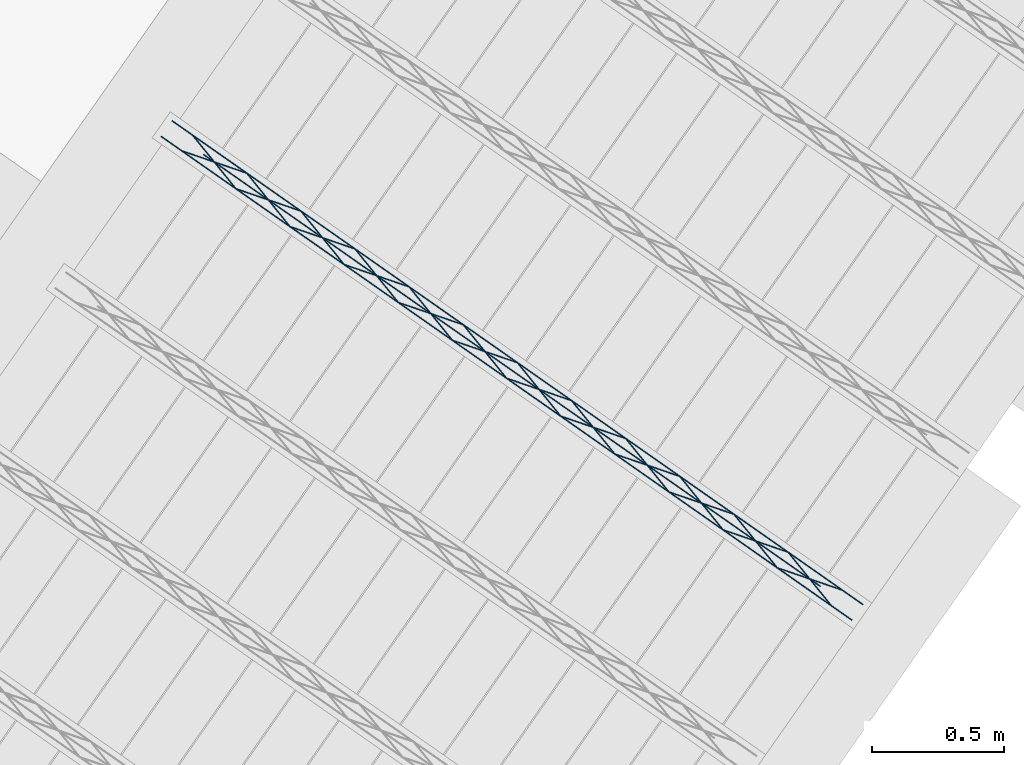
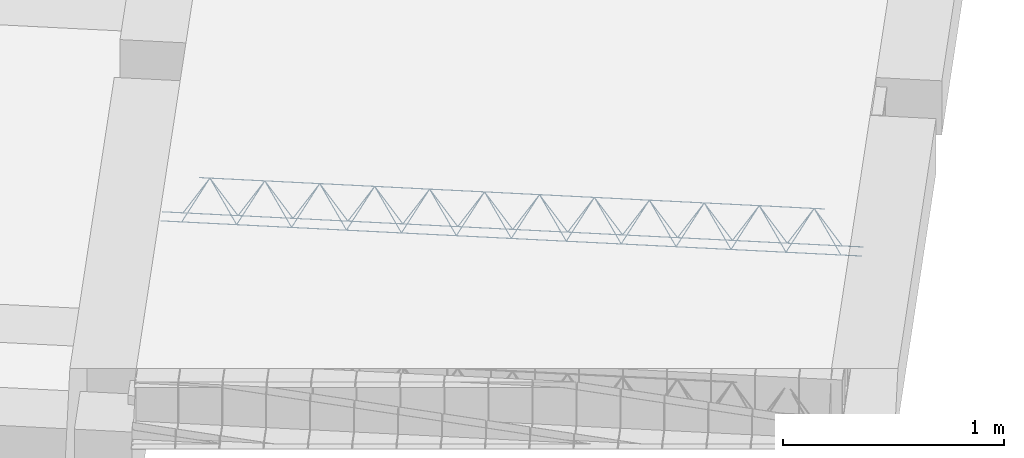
# One storey, part 9 of 46: 1 member.
"""IFC2X3 building model written with IfcOpenShell, lengths in metres."""

from ifc_helpers import new_model, entity, si_unit, converted_unit, derived_unit, direction, frame, origin, origin_2d_with_axis, place, context, subcontext, project, spatial, circle, extrude, type_object, element, save


model = new_model("IFC2X3")

# Units and contexts
model_context = context("Model", 3, precision=1e-05, world=origin(), true_north=direction((6.123031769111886e-17, 1.0)))
body_context = subcontext(model_context, "Body", "Model", "MODEL_VIEW")
ifc_project = project(units=[si_unit("LENGTHUNIT", "METRE"), si_unit("AREAUNIT", "SQUARE_METRE"), si_unit("VOLUMEUNIT", "CUBIC_METRE"), converted_unit("PLANEANGLEUNIT", "DEGREE", entity("IfcPlaneAngleMeasure", 0.017453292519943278), si_unit("PLANEANGLEUNIT", "RADIAN"), dimensions=[0, 0, 0, 0, 0, 0, 0]), si_unit("MASSUNIT", "GRAM", prefix="KILO"), derived_unit("MASSDENSITYUNIT", [(si_unit("MASSUNIT", "GRAM", prefix="KILO"), 1), (si_unit("LENGTHUNIT", "METRE"), -3)]), derived_unit("IONCONCENTRATIONUNIT", [(si_unit("MASSUNIT", "GRAM", prefix="KILO"), 1), (si_unit("LENGTHUNIT", "METRE"), -3)]), derived_unit("MOMENTOFINERTIAUNIT", [(si_unit("LENGTHUNIT", "METRE"), 4)]), si_unit("TIMEUNIT", "SECOND"), si_unit("FREQUENCYUNIT", "HERTZ"), si_unit("THERMODYNAMICTEMPERATUREUNIT", "DEGREE_CELSIUS"), derived_unit("THERMALTRANSMITTANCEUNIT", [(si_unit("MASSUNIT", "GRAM", prefix="KILO"), 1), (si_unit("THERMODYNAMICTEMPERATUREUNIT", "KELVIN"), -1), (si_unit("TIMEUNIT", "SECOND"), -3)]), derived_unit("THERMALCONDUCTANCEUNIT", [(si_unit("MASSUNIT", "GRAM", prefix="KILO"), 1), (si_unit("THERMODYNAMICTEMPERATUREUNIT", "KELVIN"), -1), (si_unit("TIMEUNIT", "SECOND"), -3), (si_unit("LENGTHUNIT", "METRE"), 1)]), derived_unit("VOLUMETRICFLOWRATEUNIT", [(si_unit("LENGTHUNIT", "METRE", prefix="DECI"), 3), (si_unit("TIMEUNIT", "SECOND"), -1)]), derived_unit("MASSFLOWRATEUNIT", [(si_unit("MASSUNIT", "GRAM", prefix="KILO"), 1), (si_unit("TIMEUNIT", "SECOND"), -1)]), derived_unit("ROTATIONALFREQUENCYUNIT", [(si_unit("TIMEUNIT", "SECOND"), -1)]), si_unit("ELECTRICCURRENTUNIT", "AMPERE"), si_unit("ELECTRICVOLTAGEUNIT", "VOLT"), si_unit("POWERUNIT", "WATT"), si_unit("FORCEUNIT", "NEWTON", prefix="KILO"), si_unit("ILLUMINANCEUNIT", "LUX"), si_unit("LUMINOUSFLUXUNIT", "LUMEN"), si_unit("LUMINOUSINTENSITYUNIT", "CANDELA"), si_unit("ENERGYUNIT", "JOULE"), derived_unit("USERDEFINED", [(si_unit("MASSUNIT", "GRAM", prefix="KILO"), -1), (si_unit("LENGTHUNIT", "METRE"), -2), (si_unit("TIMEUNIT", "SECOND"), 3), (si_unit("LUMINOUSFLUXUNIT", "LUMEN"), 1)]), derived_unit("USERDEFINED", [(si_unit("MASSUNIT", "GRAM", prefix="KILO"), 1), (si_unit("TIMEUNIT", "SECOND"), -3), (si_unit("LENGTHUNIT", "METRE"), 3), (si_unit("ELECTRICCURRENTUNIT", "AMPERE"), -2)]), derived_unit("SOUNDPOWERUNIT", [(si_unit("MASSUNIT", "GRAM", prefix="KILO"), 1), (si_unit("TIMEUNIT", "SECOND"), -3), (si_unit("LENGTHUNIT", "METRE"), 2)]), derived_unit("SOUNDPRESSUREUNIT", [(si_unit("MASSUNIT", "GRAM", prefix="KILO"), 1), (si_unit("LENGTHUNIT", "METRE"), -1), (si_unit("TIMEUNIT", "SECOND"), -2)]), derived_unit("LINEARVELOCITYUNIT", [(si_unit("LENGTHUNIT", "METRE"), 1), (si_unit("TIMEUNIT", "SECOND"), -1)]), si_unit("PRESSUREUNIT", "PASCAL"), derived_unit("USERDEFINED", [(si_unit("MASSUNIT", "GRAM", prefix="KILO"), 1), (si_unit("LENGTHUNIT", "METRE"), -2), (si_unit("TIMEUNIT", "SECOND"), -2)]), derived_unit("LINEARFORCEUNIT", [(si_unit("MASSUNIT", "GRAM", prefix="KILO"), 1), (si_unit("TIMEUNIT", "SECOND"), -2)]), derived_unit("PLANARFORCEUNIT", [(si_unit("MASSUNIT", "GRAM", prefix="KILO"), 1), (si_unit("LENGTHUNIT", "METRE"), -1), (si_unit("TIMEUNIT", "SECOND"), -2)]), derived_unit("SPECIFICHEATCAPACITYUNIT", [(si_unit("THERMODYNAMICTEMPERATUREUNIT", "KELVIN"), -1), (si_unit("LENGTHUNIT", "METRE"), 2), (si_unit("TIMEUNIT", "SECOND"), -2)]), derived_unit("HEATFLUXDENSITYUNIT", [(si_unit("MASSUNIT", "GRAM", prefix="KILO"), 1), (si_unit("TIMEUNIT", "SECOND"), -3)]), derived_unit("HEATINGVALUEUNIT", [(si_unit("LENGTHUNIT", "METRE"), 2), (si_unit("TIMEUNIT", "SECOND"), -2)]), derived_unit("VAPORPERMEABILITYUNIT", [(si_unit("LENGTHUNIT", "METRE"), -1), (si_unit("TIMEUNIT", "SECOND"), 1)]), derived_unit("DYNAMICVISCOSITYUNIT", [(si_unit("MASSUNIT", "GRAM", prefix="KILO"), 1), (si_unit("TIMEUNIT", "SECOND"), -1), (si_unit("LENGTHUNIT", "METRE"), -1)]), derived_unit("THERMALEXPANSIONCOEFFICIENTUNIT", [(si_unit("THERMODYNAMICTEMPERATUREUNIT", "KELVIN"), -1)]), derived_unit("MODULUSOFELASTICITYUNIT", [(si_unit("MASSUNIT", "GRAM", prefix="KILO"), 1), (si_unit("LENGTHUNIT", "METRE"), -1), (si_unit("TIMEUNIT", "SECOND"), -2)]), derived_unit("ISOTHERMALMOISTURECAPACITYUNIT", [(si_unit("MASSUNIT", "GRAM", prefix="KILO"), -1), (si_unit("LENGTHUNIT", "METRE"), 3)]), derived_unit("MOISTUREDIFFUSIVITYUNIT", [(si_unit("TIMEUNIT", "SECOND"), -1), (si_unit("LENGTHUNIT", "METRE"), 2)]), derived_unit("MASSPERLENGTHUNIT", [(si_unit("MASSUNIT", "GRAM", prefix="KILO"), 1), (si_unit("LENGTHUNIT", "METRE"), -1)]), derived_unit("THERMALRESISTANCEUNIT", [(si_unit("MASSUNIT", "GRAM", prefix="KILO"), -1), (si_unit("TIMEUNIT", "SECOND"), 3), (si_unit("THERMODYNAMICTEMPERATUREUNIT", "KELVIN"), 1)]), derived_unit("ACCELERATIONUNIT", [(si_unit("LENGTHUNIT", "METRE"), 1), (si_unit("TIMEUNIT", "SECOND"), -2)]), derived_unit("ANGULARVELOCITYUNIT", [(si_unit("TIMEUNIT", "SECOND"), -1), (si_unit("PLANEANGLEUNIT", "RADIAN"), 1)]), derived_unit("LINEARSTIFFNESSUNIT", [(si_unit("MASSUNIT", "GRAM", prefix="KILO"), 1), (si_unit("TIMEUNIT", "SECOND"), -2)]), derived_unit("WARPINGCONSTANTUNIT", [(si_unit("LENGTHUNIT", "METRE"), 6)]), derived_unit("LINEARMOMENTUNIT", [(si_unit("MASSUNIT", "GRAM", prefix="KILO"), 1), (si_unit("LENGTHUNIT", "METRE"), 1), (si_unit("TIMEUNIT", "SECOND"), -2)]), derived_unit("TORQUEUNIT", [(si_unit("MASSUNIT", "GRAM", prefix="KILO"), 1), (si_unit("LENGTHUNIT", "METRE"), 2), (si_unit("TIMEUNIT", "SECOND"), -2)])], contexts=[model_context])

# Site, building, storey
site_placement = place(None, origin())
site = spatial("IfcSite", under=ifc_project, at=site_placement, Name="Default", CompositionType="ELEMENT")
building_placement = place(site_placement, origin())
building = spatial("IfcBuilding", under=site, at=building_placement, CompositionType="ELEMENT")
storey_placement = place(building_placement, frame((0.0, 0.0, 99.52000000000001)))
storey = spatial("IfcBuildingStorey", under=building, at=storey_placement, Name="F1", CompositionType="ELEMENT", Elevation=99.52000000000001)

# Member
member_type = type_object("IfcMemberType", Name="Celosía (Vigueta 5 - Paño 4)", PredefinedType="NOTDEFINED")
member_placement = place(storey_placement, origin())
element("IfcMember", 1, at=member_placement, inside=storey, type_object=member_type, Name="Celosía (Vigueta 5 - Paño 4)", context=body_context, shape_type="SweptSolid", body=[
    extrude(circle(Radius=0.0025, at=origin_2d_with_axis()), frame((6.060444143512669, -1.54042922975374, 0.22500000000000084), z_axis=(0.8191520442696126, -0.5735764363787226, 0.0), x_axis=(-0.5735764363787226, -0.8191520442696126, 0.0)), (0.0, 0.0, 1.0), 3.191999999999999),
    extrude(circle(Radius=0.0025, at=origin_2d_with_axis()), frame((6.221167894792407, -1.609021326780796, 0.4500000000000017), z_axis=(0.8191520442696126, -0.5735764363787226, 0.0), x_axis=(-0.5735764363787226, -0.8191520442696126, 0.0)), (0.0, 0.0, 1.0), 2.849999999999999),
    extrude(circle(Radius=0.0025, at=origin_2d_with_axis()), frame((8.59653887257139, -3.316221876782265, 0.22500000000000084), z_axis=(-0.3145304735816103, 0.389334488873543, 0.8657304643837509), x_axis=(-0.7778747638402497, -0.6284193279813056, 0.0)), (0.0, 0.0, 1.0), 0.2598961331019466),
    extrude(circle(Radius=0.0025, at=origin_2d_with_axis()), frame((8.391750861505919, -3.1728277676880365, 0.22499999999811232), z_axis=(0.47343050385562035, -0.1624017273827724, 0.8657304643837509), x_axis=(-0.3244721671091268, -0.9458952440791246, 0.0)), (0.0, 0.0, 1.0), 0.25989613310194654),
    extrude(circle(Radius=0.0025, at=origin_2d_with_axis()), frame((8.391750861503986, -3.172827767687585, 0.22500000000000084), z_axis=(-0.3145304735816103, 0.389334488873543, 0.8657304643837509), x_axis=(-0.7778747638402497, -0.6284193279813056, 0.0)), (0.0, 0.0, 1.0), 0.2598961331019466),
    extrude(circle(Radius=0.0025, at=origin_2d_with_axis()), frame((8.186962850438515, -3.0294336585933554, 0.22499999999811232), z_axis=(0.47343050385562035, -0.1624017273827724, 0.8657304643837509), x_axis=(-0.3244721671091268, -0.9458952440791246, 0.0)), (0.0, 0.0, 1.0), 0.25989613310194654),
    extrude(circle(Radius=0.0025, at=origin_2d_with_axis()), frame((8.186962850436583, -3.029433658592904, 0.22500000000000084), z_axis=(-0.3145304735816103, 0.389334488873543, 0.8657304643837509), x_axis=(-0.7778747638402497, -0.6284193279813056, 0.0)), (0.0, 0.0, 1.0), 0.2598961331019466),
    extrude(circle(Radius=0.0025, at=origin_2d_with_axis()), frame((7.982174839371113, -2.8860395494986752, 0.22499999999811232), z_axis=(0.47343050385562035, -0.1624017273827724, 0.8657304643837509), x_axis=(-0.3244721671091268, -0.9458952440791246, 0.0)), (0.0, 0.0, 1.0), 0.25989613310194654),
    extrude(circle(Radius=0.0025, at=origin_2d_with_axis()), frame((7.98217483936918, -2.886039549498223, 0.22500000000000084), z_axis=(-0.3145304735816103, 0.389334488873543, 0.8657304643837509), x_axis=(-0.7778747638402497, -0.6284193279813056, 0.0)), (0.0, 0.0, 1.0), 0.2598961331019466),
    extrude(circle(Radius=0.0025, at=origin_2d_with_axis()), frame((7.77738682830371, -2.742645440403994, 0.22499999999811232), z_axis=(0.47343050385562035, -0.1624017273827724, 0.8657304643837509), x_axis=(-0.3244721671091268, -0.9458952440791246, 0.0)), (0.0, 0.0, 1.0), 0.25989613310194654),
    extrude(circle(Radius=0.0025, at=origin_2d_with_axis()), frame((7.777386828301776, -2.742645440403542, 0.22500000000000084), z_axis=(-0.3145304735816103, 0.389334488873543, 0.8657304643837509), x_axis=(-0.7778747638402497, -0.6284193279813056, 0.0)), (0.0, 0.0, 1.0), 0.2598961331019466),
    extrude(circle(Radius=0.0025, at=origin_2d_with_axis()), frame((7.572598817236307, -2.5992513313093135, 0.22499999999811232), z_axis=(0.47343050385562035, -0.1624017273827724, 0.8657304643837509), x_axis=(-0.3244721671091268, -0.9458952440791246, 0.0)), (0.0, 0.0, 1.0), 0.25989613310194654),
    extrude(circle(Radius=0.0025, at=origin_2d_with_axis()), frame((7.572598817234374, -2.599251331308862, 0.22500000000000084), z_axis=(-0.3145304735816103, 0.389334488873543, 0.8657304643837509), x_axis=(-0.7778747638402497, -0.6284193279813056, 0.0)), (0.0, 0.0, 1.0), 0.2598961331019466),
    extrude(circle(Radius=0.0025, at=origin_2d_with_axis()), frame((7.367810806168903, -2.4558572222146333, 0.22499999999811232), z_axis=(0.47343050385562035, -0.1624017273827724, 0.8657304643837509), x_axis=(-0.3244721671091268, -0.9458952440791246, 0.0)), (0.0, 0.0, 1.0), 0.25989613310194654),
    extrude(circle(Radius=0.0025, at=origin_2d_with_axis()), frame((7.36781080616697, -2.4558572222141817, 0.22500000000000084), z_axis=(-0.3145304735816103, 0.389334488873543, 0.8657304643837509), x_axis=(-0.7778747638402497, -0.6284193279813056, 0.0)), (0.0, 0.0, 1.0), 0.2598961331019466),
    extrude(circle(Radius=0.0025, at=origin_2d_with_axis()), frame((7.1630227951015, -2.3124631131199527, 0.22499999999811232), z_axis=(0.47343050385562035, -0.1624017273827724, 0.8657304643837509), x_axis=(-0.3244721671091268, -0.9458952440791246, 0.0)), (0.0, 0.0, 1.0), 0.25989613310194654),
    extrude(circle(Radius=0.0025, at=origin_2d_with_axis()), frame((7.163022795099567, -2.3124631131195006, 0.22500000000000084), z_axis=(-0.3145304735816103, 0.389334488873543, 0.8657304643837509), x_axis=(-0.7778747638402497, -0.6284193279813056, 0.0)), (0.0, 0.0, 1.0), 0.2598961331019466),
    extrude(circle(Radius=0.0025, at=origin_2d_with_axis()), frame((6.958234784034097, -2.169069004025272, 0.22499999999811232), z_axis=(0.47343050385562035, -0.1624017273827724, 0.8657304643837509), x_axis=(-0.3244721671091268, -0.9458952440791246, 0.0)), (0.0, 0.0, 1.0), 0.25989613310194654),
    extrude(circle(Radius=0.0025, at=origin_2d_with_axis()), frame((6.9582347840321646, -2.16906900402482, 0.22500000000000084), z_axis=(-0.3145304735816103, 0.389334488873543, 0.8657304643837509), x_axis=(-0.7778747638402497, -0.6284193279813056, 0.0)), (0.0, 0.0, 1.0), 0.2598961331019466),
    extrude(circle(Radius=0.0025, at=origin_2d_with_axis()), frame((6.753446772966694, -2.0256748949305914, 0.22499999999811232), z_axis=(0.47343050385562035, -0.1624017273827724, 0.8657304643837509), x_axis=(-0.3244721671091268, -0.9458952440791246, 0.0)), (0.0, 0.0, 1.0), 0.25989613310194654),
    extrude(circle(Radius=0.0025, at=origin_2d_with_axis()), frame((6.753446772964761, -2.0256748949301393, 0.22500000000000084), z_axis=(-0.3145304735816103, 0.389334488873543, 0.8657304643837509), x_axis=(-0.7778747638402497, -0.6284193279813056, 0.0)), (0.0, 0.0, 1.0), 0.2598961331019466),
    extrude(circle(Radius=0.0025, at=origin_2d_with_axis()), frame((6.54865876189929, -1.882280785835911, 0.22499999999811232), z_axis=(0.47343050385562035, -0.1624017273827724, 0.8657304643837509), x_axis=(-0.3244721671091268, -0.9458952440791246, 0.0)), (0.0, 0.0, 1.0), 0.25989613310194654),
    extrude(circle(Radius=0.0025, at=origin_2d_with_axis()), frame((6.548658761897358, -1.8822807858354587, 0.22500000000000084), z_axis=(-0.3145304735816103, 0.389334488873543, 0.8657304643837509), x_axis=(-0.7778747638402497, -0.6284193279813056, 0.0)), (0.0, 0.0, 1.0), 0.2598961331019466),
    extrude(circle(Radius=0.0025, at=origin_2d_with_axis()), frame((6.343870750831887, -1.7388866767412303, 0.22499999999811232), z_axis=(0.47343050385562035, -0.1624017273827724, 0.8657304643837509), x_axis=(-0.3244721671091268, -0.9458952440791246, 0.0)), (0.0, 0.0, 1.0), 0.25989613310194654),
    extrude(circle(Radius=0.0025, at=origin_2d_with_axis()), frame((6.3438707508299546, -1.7388866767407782, 0.22500000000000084), z_axis=(-0.3145304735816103, 0.389334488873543, 0.8657304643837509), x_axis=(-0.7778747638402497, -0.6284193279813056, 0.0)), (0.0, 0.0, 1.0), 0.2598961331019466),
    extrude(circle(Radius=0.0025, at=origin_2d_with_axis()), frame((6.1390827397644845, -1.5954925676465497, 0.22499999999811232), z_axis=(0.47343050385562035, -0.1624017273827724, 0.8657304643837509), x_axis=(-0.3244721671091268, -0.9458952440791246, 0.0)), (0.0, 0.0, 1.0), 0.25989613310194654),
    extrude(circle(Radius=0.0025, at=origin_2d_with_axis()), frame((6.101741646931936, -1.4814502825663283, 0.22500000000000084), z_axis=(0.8191520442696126, -0.5735764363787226, 0.0), x_axis=(-0.5735764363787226, -0.8191520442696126, 0.0)), (0.0, 0.0, 1.0), 3.191999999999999),
    extrude(circle(Radius=0.0025, at=origin_2d_with_axis()), frame((8.637836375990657, -3.2572429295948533, 0.22500000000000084), z_axis=(-0.47343050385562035, 0.1624017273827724, 0.8657304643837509), x_axis=(-0.3244721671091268, -0.9458952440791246, 0.0)), (0.0, 0.0, 1.0), 0.25989613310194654),
    extrude(circle(Radius=0.0025, at=origin_2d_with_axis()), frame((8.433048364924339, -3.1138488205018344, 0.22499999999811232), z_axis=(0.3145304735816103, -0.389334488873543, 0.8657304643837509), x_axis=(-0.7778747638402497, -0.6284193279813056, 0.0)), (0.0, 0.0, 1.0), 0.2598961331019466),
    extrude(circle(Radius=0.0025, at=origin_2d_with_axis()), frame((8.433048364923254, -3.113848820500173, 0.22500000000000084), z_axis=(-0.47343050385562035, 0.1624017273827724, 0.8657304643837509), x_axis=(-0.3244721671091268, -0.9458952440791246, 0.0)), (0.0, 0.0, 1.0), 0.25989613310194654),
    extrude(circle(Radius=0.0025, at=origin_2d_with_axis()), frame((8.228260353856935, -2.970454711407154, 0.22499999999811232), z_axis=(0.3145304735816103, -0.389334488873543, 0.8657304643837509), x_axis=(-0.7778747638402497, -0.6284193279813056, 0.0)), (0.0, 0.0, 1.0), 0.2598961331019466),
    extrude(circle(Radius=0.0025, at=origin_2d_with_axis()), frame((8.228260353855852, -2.970454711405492, 0.22500000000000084), z_axis=(-0.47343050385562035, 0.1624017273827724, 0.8657304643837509), x_axis=(-0.3244721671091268, -0.9458952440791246, 0.0)), (0.0, 0.0, 1.0), 0.25989613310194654),
    extrude(circle(Radius=0.0025, at=origin_2d_with_axis()), frame((8.023472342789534, -2.8270606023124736, 0.22499999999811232), z_axis=(0.3145304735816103, -0.389334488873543, 0.8657304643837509), x_axis=(-0.7778747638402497, -0.6284193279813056, 0.0)), (0.0, 0.0, 1.0), 0.2598961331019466),
    extrude(circle(Radius=0.0025, at=origin_2d_with_axis()), frame((8.023472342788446, -2.8270606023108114, 0.22500000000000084), z_axis=(-0.47343050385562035, 0.1624017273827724, 0.8657304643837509), x_axis=(-0.3244721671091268, -0.9458952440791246, 0.0)), (0.0, 0.0, 1.0), 0.25989613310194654),
    extrude(circle(Radius=0.0025, at=origin_2d_with_axis()), frame((7.818684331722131, -2.6836664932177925, 0.22499999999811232), z_axis=(0.3145304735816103, -0.389334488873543, 0.8657304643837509), x_axis=(-0.7778747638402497, -0.6284193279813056, 0.0)), (0.0, 0.0, 1.0), 0.2598961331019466),
    extrude(circle(Radius=0.0025, at=origin_2d_with_axis()), frame((7.818684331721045, -2.6836664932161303, 0.22500000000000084), z_axis=(-0.47343050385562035, 0.1624017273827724, 0.8657304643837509), x_axis=(-0.3244721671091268, -0.9458952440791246, 0.0)), (0.0, 0.0, 1.0), 0.25989613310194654),
    extrude(circle(Radius=0.0025, at=origin_2d_with_axis()), frame((7.613896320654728, -2.540272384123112, 0.22499999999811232), z_axis=(0.3145304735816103, -0.389334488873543, 0.8657304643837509), x_axis=(-0.7778747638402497, -0.6284193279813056, 0.0)), (0.0, 0.0, 1.0), 0.2598961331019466),
    extrude(circle(Radius=0.0025, at=origin_2d_with_axis()), frame((7.613896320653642, -2.54027238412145, 0.22500000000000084), z_axis=(-0.47343050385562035, 0.1624017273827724, 0.8657304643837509), x_axis=(-0.3244721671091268, -0.9458952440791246, 0.0)), (0.0, 0.0, 1.0), 0.25989613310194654),
    extrude(circle(Radius=0.0025, at=origin_2d_with_axis()), frame((7.409108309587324, -2.396878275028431, 0.22499999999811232), z_axis=(0.3145304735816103, -0.389334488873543, 0.8657304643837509), x_axis=(-0.7778747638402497, -0.6284193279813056, 0.0)), (0.0, 0.0, 1.0), 0.2598961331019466),
    extrude(circle(Radius=0.0025, at=origin_2d_with_axis()), frame((7.409108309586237, -2.3968782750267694, 0.22500000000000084), z_axis=(-0.47343050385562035, 0.1624017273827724, 0.8657304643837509), x_axis=(-0.3244721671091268, -0.9458952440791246, 0.0)), (0.0, 0.0, 1.0), 0.25989613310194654),
    extrude(circle(Radius=0.0025, at=origin_2d_with_axis()), frame((7.204320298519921, -2.2534841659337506, 0.22499999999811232), z_axis=(0.3145304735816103, -0.389334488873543, 0.8657304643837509), x_axis=(-0.7778747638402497, -0.6284193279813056, 0.0)), (0.0, 0.0, 1.0), 0.2598961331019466),
    extrude(circle(Radius=0.0025, at=origin_2d_with_axis()), frame((7.204320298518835, -2.253484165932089, 0.22500000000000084), z_axis=(-0.47343050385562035, 0.1624017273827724, 0.8657304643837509), x_axis=(-0.3244721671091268, -0.9458952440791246, 0.0)), (0.0, 0.0, 1.0), 0.25989613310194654),
    extrude(circle(Radius=0.0025, at=origin_2d_with_axis()), frame((6.999532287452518, -2.1100900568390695, 0.22499999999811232), z_axis=(0.3145304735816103, -0.389334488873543, 0.8657304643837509), x_axis=(-0.7778747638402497, -0.6284193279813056, 0.0)), (0.0, 0.0, 1.0), 0.2598961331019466),
    extrude(circle(Radius=0.0025, at=origin_2d_with_axis()), frame((6.999532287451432, -2.110090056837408, 0.22500000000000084), z_axis=(-0.47343050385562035, 0.1624017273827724, 0.8657304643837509), x_axis=(-0.3244721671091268, -0.9458952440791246, 0.0)), (0.0, 0.0, 1.0), 0.25989613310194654),
    extrude(circle(Radius=0.0025, at=origin_2d_with_axis()), frame((6.7947442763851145, -1.9666959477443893, 0.22499999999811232), z_axis=(0.3145304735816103, -0.389334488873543, 0.8657304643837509), x_axis=(-0.7778747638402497, -0.6284193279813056, 0.0)), (0.0, 0.0, 1.0), 0.2598961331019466),
    extrude(circle(Radius=0.0025, at=origin_2d_with_axis()), frame((6.794744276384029, -1.9666959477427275, 0.22500000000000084), z_axis=(-0.47343050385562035, 0.1624017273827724, 0.8657304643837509), x_axis=(-0.3244721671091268, -0.9458952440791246, 0.0)), (0.0, 0.0, 1.0), 0.25989613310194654),
    extrude(circle(Radius=0.0025, at=origin_2d_with_axis()), frame((6.589956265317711, -1.8233018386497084, 0.22499999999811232), z_axis=(0.3145304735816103, -0.389334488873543, 0.8657304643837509), x_axis=(-0.7778747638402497, -0.6284193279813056, 0.0)), (0.0, 0.0, 1.0), 0.2598961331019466),
    extrude(circle(Radius=0.0025, at=origin_2d_with_axis()), frame((6.589956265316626, -1.8233018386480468, 0.22500000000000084), z_axis=(-0.47343050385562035, 0.1624017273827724, 0.8657304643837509), x_axis=(-0.3244721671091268, -0.9458952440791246, 0.0)), (0.0, 0.0, 1.0), 0.25989613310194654),
    extrude(circle(Radius=0.0025, at=origin_2d_with_axis()), frame((6.385168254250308, -1.6799077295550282, 0.22499999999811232), z_axis=(0.3145304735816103, -0.389334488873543, 0.8657304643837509), x_axis=(-0.7778747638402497, -0.6284193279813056, 0.0)), (0.0, 0.0, 1.0), 0.2598961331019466),
    extrude(circle(Radius=0.0025, at=origin_2d_with_axis()), frame((6.385168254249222, -1.6799077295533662, 0.22500000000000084), z_axis=(-0.47343050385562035, 0.1624017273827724, 0.8657304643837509), x_axis=(-0.3244721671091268, -0.9458952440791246, 0.0)), (0.0, 0.0, 1.0), 0.25989613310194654),
    extrude(circle(Radius=0.0025, at=origin_2d_with_axis()), frame((6.180380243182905, -1.5365136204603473, 0.22499999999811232), z_axis=(0.3145304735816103, -0.389334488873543, 0.8657304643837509), x_axis=(-0.7778747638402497, -0.6284193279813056, 0.0)), (0.0, 0.0, 1.0), 0.2598961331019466),
])

save(model, "model.ifc")
